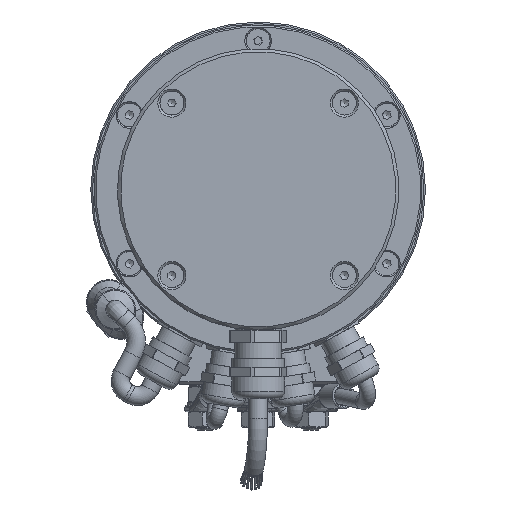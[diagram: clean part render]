
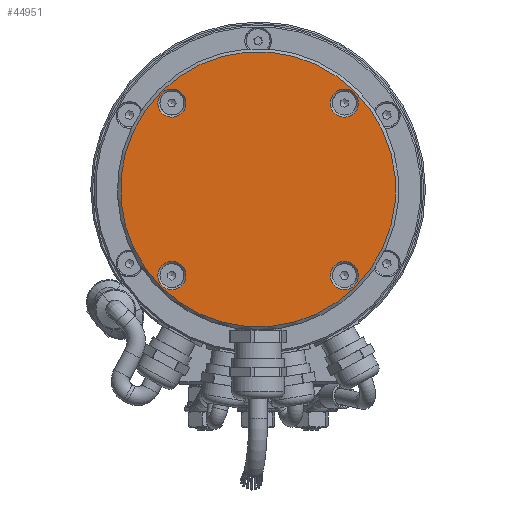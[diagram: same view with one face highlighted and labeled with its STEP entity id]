
A CAD part, left-side view. The second image highlights one B-rep face of the part: STEP entity #44951.
In plain terms, the highlighted planar face has unit normal (-1, 0, 0).
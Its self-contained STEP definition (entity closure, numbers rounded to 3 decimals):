
#8544=FACE_BOUND('',#15070,.T.);
#8545=FACE_BOUND('',#15071,.T.);
#8546=FACE_BOUND('',#15072,.T.);
#8547=FACE_BOUND('',#15073,.T.);
#10160=PLANE('',#48871);
#12443=FACE_OUTER_BOUND('',#15069,.T.);
#15069=EDGE_LOOP('',(#39041));
#15070=EDGE_LOOP('',(#39042));
#15071=EDGE_LOOP('',(#39043));
#15072=EDGE_LOOP('',(#39044));
#15073=EDGE_LOOP('',(#39045));
#17409=CIRCLE('',#48822,4.5);
#17416=CIRCLE('',#48831,4.5);
#17423=CIRCLE('',#48840,4.5);
#17430=CIRCLE('',#48849,4.5);
#17447=CIRCLE('',#48872,44.);
#21258=VERTEX_POINT('',#78971);
#21266=VERTEX_POINT('',#78998);
#21274=VERTEX_POINT('',#79025);
#21282=VERTEX_POINT('',#79052);
#21293=VERTEX_POINT('',#79120);
#27239=EDGE_CURVE('',#21258,#21258,#17409,.T.);
#27249=EDGE_CURVE('',#21266,#21266,#17416,.T.);
#27259=EDGE_CURVE('',#21274,#21274,#17423,.T.);
#27269=EDGE_CURVE('',#21282,#21282,#17430,.T.);
#27292=EDGE_CURVE('',#21293,#21293,#17447,.T.);
#39041=ORIENTED_EDGE('',*,*,#27292,.F.);
#39042=ORIENTED_EDGE('',*,*,#27239,.T.);
#39043=ORIENTED_EDGE('',*,*,#27249,.T.);
#39044=ORIENTED_EDGE('',*,*,#27259,.T.);
#39045=ORIENTED_EDGE('',*,*,#27269,.T.);
#44951=ADVANCED_FACE('',(#12443,#8544,#8545,#8546,#8547),#10160,.T.);
#48822=AXIS2_PLACEMENT_3D('',#78972,#59843,#59844);
#48831=AXIS2_PLACEMENT_3D('',#78999,#59863,#59864);
#48840=AXIS2_PLACEMENT_3D('',#79026,#59883,#59884);
#48849=AXIS2_PLACEMENT_3D('',#79053,#59903,#59904);
#48871=AXIS2_PLACEMENT_3D('',#79119,#59950,#59951);
#48872=AXIS2_PLACEMENT_3D('',#79121,#59952,#59953);
#59843=DIRECTION('center_axis',(1.,0.,0.));
#59844=DIRECTION('ref_axis',(0.,-0.707,0.707));
#59863=DIRECTION('center_axis',(1.,0.,0.));
#59864=DIRECTION('ref_axis',(0.,0.707,0.707));
#59883=DIRECTION('center_axis',(1.,0.,0.));
#59884=DIRECTION('ref_axis',(0.,0.707,-0.707));
#59903=DIRECTION('center_axis',(1.,0.,0.));
#59904=DIRECTION('ref_axis',(0.,-0.707,-0.707));
#59950=DIRECTION('center_axis',(-1.,0.,0.));
#59951=DIRECTION('ref_axis',(0.,-0.707,-0.707));
#59952=DIRECTION('center_axis',(1.,0.,0.));
#59953=DIRECTION('ref_axis',(0.,0.707,0.707));
#78971=CARTESIAN_POINT('',(-191.6,30.759,24.395));
#78972=CARTESIAN_POINT('Origin',(-191.6,27.577,27.577));
#78998=CARTESIAN_POINT('',(-191.6,24.395,-30.759));
#78999=CARTESIAN_POINT('Origin',(-191.6,27.577,-27.577));
#79025=CARTESIAN_POINT('',(-191.6,-30.759,-24.395));
#79026=CARTESIAN_POINT('Origin',(-191.6,-27.577,-27.577));
#79052=CARTESIAN_POINT('',(-191.6,-24.395,30.759));
#79053=CARTESIAN_POINT('Origin',(-191.6,-27.577,27.577));
#79119=CARTESIAN_POINT('Origin',(-191.6,-15.91,-15.91));
#79120=CARTESIAN_POINT('',(-191.6,-31.113,-31.113));
#79121=CARTESIAN_POINT('Origin',(-191.6,0.,0.));
